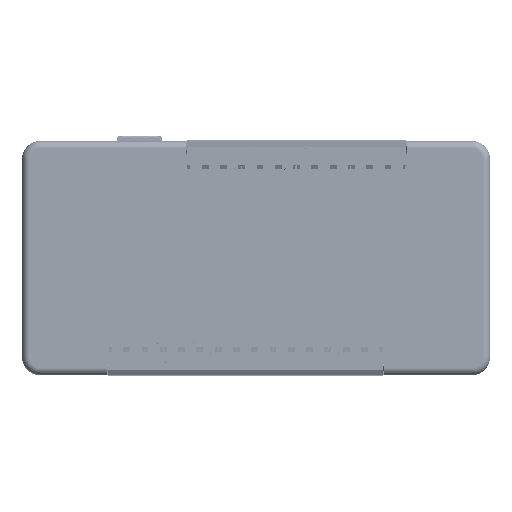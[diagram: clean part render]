
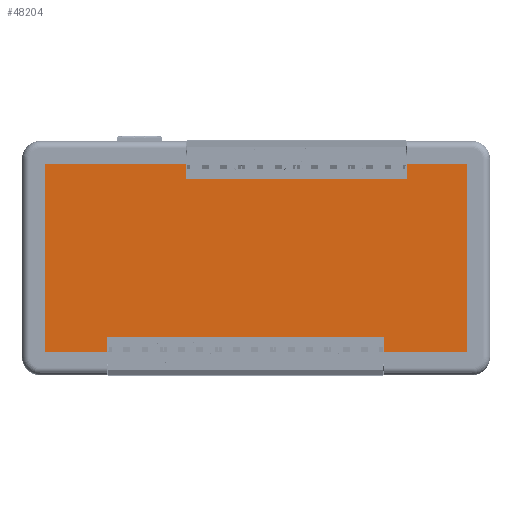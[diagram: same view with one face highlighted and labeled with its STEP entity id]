
A CAD part, top view. The second image highlights one B-rep face of the part: STEP entity #48204.
In plain terms, the highlighted planar face has unit normal (0, 0, 1) as drawn and (0, 0, -1) by its records, which use the part's own axes.
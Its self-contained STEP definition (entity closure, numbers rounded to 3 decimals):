
#1753 = VERTEX_POINT ( 'NONE', #14229 ) ;
#2538 = VECTOR ( 'NONE', #88848, 1000. ) ;
#2775 = CARTESIAN_POINT ( 'NONE',  ( 0., -22., 1. ) ) ;
#8568 = CARTESIAN_POINT ( 'NONE',  ( 42., -22., 1. ) ) ;
#8973 = ORIENTED_EDGE ( 'NONE', *, *, #113187, .T. ) ;
#10159 = LINE ( 'NONE', #43182, #111595 ) ;
#10863 = AXIS2_PLACEMENT_3D ( 'NONE', #37024, #27589, #96327 ) ;
#11257 = EDGE_LOOP ( 'NONE', ( #113862, #111180, #85255, #121652, #47226, #101089, #13635, #101018, #8973, #92083, #38130, #66348 ) ) ;
#12184 = CARTESIAN_POINT ( 'NONE',  ( -58.625, 26.125, 1. ) ) ;
#13635 = ORIENTED_EDGE ( 'NONE', *, *, #115808, .T. ) ;
#13840 = LINE ( 'NONE', #88024, #66150 ) ;
#14139 = VERTEX_POINT ( 'NONE', #52058 ) ;
#14229 = CARTESIAN_POINT ( 'NONE',  ( -58.625, -26.125, 1. ) ) ;
#15982 = LINE ( 'NONE', #73170, #91333 ) ;
#16438 = VERTEX_POINT ( 'NONE', #19746 ) ;
#19746 = CARTESIAN_POINT ( 'NONE',  ( 58.625, -26.125, 1. ) ) ;
#22816 = VECTOR ( 'NONE', #117639, 1000. ) ;
#24516 = CARTESIAN_POINT ( 'NONE',  ( -19.5, -22., 1. ) ) ;
#25981 = EDGE_CURVE ( 'NONE', #117011, #70085, #81021, .T. ) ;
#27173 = PLANE ( 'NONE',  #10863 ) ;
#27589 = DIRECTION ( 'NONE',  ( 0., 0., 1. ) ) ;
#28575 = LINE ( 'NONE', #42310, #100781 ) ;
#28725 = CARTESIAN_POINT ( 'NONE',  ( 35.5, 22., 1. ) ) ;
#29984 = CARTESIAN_POINT ( 'NONE',  ( -41.5, 0., 1. ) ) ;
#30557 = LINE ( 'NONE', #57006, #82888 ) ;
#30791 = VECTOR ( 'NONE', #103133, 1000. ) ;
#32031 = DIRECTION ( 'NONE',  ( 1., 0., 0. ) ) ;
#32137 = EDGE_CURVE ( 'NONE', #83367, #34382, #30557, .T. ) ;
#34251 = VERTEX_POINT ( 'NONE', #127475 ) ;
#34382 = VERTEX_POINT ( 'NONE', #82337 ) ;
#35106 = VECTOR ( 'NONE', #102932, 1000. ) ;
#36667 = VERTEX_POINT ( 'NONE', #28725 ) ;
#37024 = CARTESIAN_POINT ( 'NONE',  ( 0., 0., 1. ) ) ;
#38130 = ORIENTED_EDGE ( 'NONE', *, *, #88432, .T. ) ;
#42310 = CARTESIAN_POINT ( 'NONE',  ( 58.625, 26.125, 1. ) ) ;
#43182 = CARTESIAN_POINT ( 'NONE',  ( -58.625, -26.125, 1. ) ) ;
#47226 = ORIENTED_EDGE ( 'NONE', *, *, #102304, .T. ) ;
#48204 = ADVANCED_FACE ( 'NONE', ( #94337 ), #27173, .F. ) ;
#51596 = DIRECTION ( 'NONE',  ( 1., 0., 0. ) ) ;
#52031 = LINE ( 'NONE', #2775, #121163 ) ;
#52058 = CARTESIAN_POINT ( 'NONE',  ( 35.5, 26.125, 1. ) ) ;
#53934 = CARTESIAN_POINT ( 'NONE',  ( -58.625, 26.125, 1. ) ) ;
#56967 = LINE ( 'NONE', #93296, #30791 ) ;
#57006 = CARTESIAN_POINT ( 'NONE',  ( -19.5, 0., 1. ) ) ;
#59022 = EDGE_CURVE ( 'NONE', #34251, #79865, #15982, .T. ) ;
#61042 = EDGE_CURVE ( 'NONE', #34382, #1753, #13840, .T. ) ;
#61161 = DIRECTION ( 'NONE',  ( 1., 0., 0. ) ) ;
#63264 = DIRECTION ( 'NONE',  ( 0., 1., 0. ) ) ;
#66150 = VECTOR ( 'NONE', #97056, 1000. ) ;
#66348 = ORIENTED_EDGE ( 'NONE', *, *, #59022, .T. ) ;
#69965 = CARTESIAN_POINT ( 'NONE',  ( 58.625, 26.125, 1. ) ) ;
#70085 = VERTEX_POINT ( 'NONE', #107559 ) ;
#71284 = EDGE_CURVE ( 'NONE', #83367, #79865, #52031, .T. ) ;
#73170 = CARTESIAN_POINT ( 'NONE',  ( 42., 0., 1. ) ) ;
#73489 = VERTEX_POINT ( 'NONE', #69965 ) ;
#74005 = VECTOR ( 'NONE', #51596, 1000. ) ;
#75057 = LINE ( 'NONE', #107378, #22816 ) ;
#79865 = VERTEX_POINT ( 'NONE', #8568 ) ;
#80558 = CARTESIAN_POINT ( 'NONE',  ( -58.625, 26.125, 1. ) ) ;
#81021 = LINE ( 'NONE', #29984, #2538 ) ;
#81728 = VECTOR ( 'NONE', #61161, 1000. ) ;
#82337 = CARTESIAN_POINT ( 'NONE',  ( -19.5, -26.125, 1. ) ) ;
#82772 = DIRECTION ( 'NONE',  ( -1., 0., 0. ) ) ;
#82888 = VECTOR ( 'NONE', #86255, 1000. ) ;
#83129 = VERTEX_POINT ( 'NONE', #12184 ) ;
#83367 = VERTEX_POINT ( 'NONE', #24516 ) ;
#85255 = ORIENTED_EDGE ( 'NONE', *, *, #61042, .T. ) ;
#86255 = DIRECTION ( 'NONE',  ( 0., -1., 0. ) ) ;
#88024 = CARTESIAN_POINT ( 'NONE',  ( -58.625, -26.125, 1. ) ) ;
#88432 = EDGE_CURVE ( 'NONE', #16438, #34251, #10159, .T. ) ;
#88848 = DIRECTION ( 'NONE',  ( 0., -1., 0. ) ) ;
#90740 = CARTESIAN_POINT ( 'NONE',  ( -58.625, 26.125, 1. ) ) ;
#91333 = VECTOR ( 'NONE', #63264, 1000. ) ;
#91644 = EDGE_CURVE ( 'NONE', #36667, #14139, #56967, .T. ) ;
#92083 = ORIENTED_EDGE ( 'NONE', *, *, #117960, .T. ) ;
#93296 = CARTESIAN_POINT ( 'NONE',  ( 35.5, 0., 1. ) ) ;
#94337 = FACE_OUTER_BOUND ( 'NONE', #11257, .T. ) ;
#96327 = DIRECTION ( 'NONE',  ( 1., 0., 0. ) ) ;
#97056 = DIRECTION ( 'NONE',  ( -1., 0., 0. ) ) ;
#100781 = VECTOR ( 'NONE', #117917, 1000. ) ;
#101018 = ORIENTED_EDGE ( 'NONE', *, *, #91644, .T. ) ;
#101089 = ORIENTED_EDGE ( 'NONE', *, *, #25981, .T. ) ;
#102304 = EDGE_CURVE ( 'NONE', #83129, #117011, #126273, .T. ) ;
#102932 = DIRECTION ( 'NONE',  ( 0., 1., 0. ) ) ;
#103133 = DIRECTION ( 'NONE',  ( 0., 1., 0. ) ) ;
#103246 = EDGE_CURVE ( 'NONE', #1753, #83129, #120959, .T. ) ;
#107378 = CARTESIAN_POINT ( 'NONE',  ( 0., 22., 1. ) ) ;
#107559 = CARTESIAN_POINT ( 'NONE',  ( -41.5, 22., 1. ) ) ;
#107792 = LINE ( 'NONE', #80558, #81728 ) ;
#111180 = ORIENTED_EDGE ( 'NONE', *, *, #32137, .T. ) ;
#111595 = VECTOR ( 'NONE', #82772, 1000. ) ;
#113187 = EDGE_CURVE ( 'NONE', #14139, #73489, #107792, .T. ) ;
#113862 = ORIENTED_EDGE ( 'NONE', *, *, #71284, .F. ) ;
#115808 = EDGE_CURVE ( 'NONE', #70085, #36667, #75057, .T. ) ;
#117011 = VERTEX_POINT ( 'NONE', #119357 ) ;
#117639 = DIRECTION ( 'NONE',  ( 1., 0., 0. ) ) ;
#117917 = DIRECTION ( 'NONE',  ( 0., -1., 0. ) ) ;
#117960 = EDGE_CURVE ( 'NONE', #73489, #16438, #28575, .T. ) ;
#119357 = CARTESIAN_POINT ( 'NONE',  ( -41.5, 26.125, 1. ) ) ;
#120959 = LINE ( 'NONE', #53934, #35106 ) ;
#121163 = VECTOR ( 'NONE', #32031, 1000. ) ;
#121652 = ORIENTED_EDGE ( 'NONE', *, *, #103246, .T. ) ;
#126273 = LINE ( 'NONE', #90740, #74005 ) ;
#127475 = CARTESIAN_POINT ( 'NONE',  ( 42., -26.125, 1. ) ) ;
